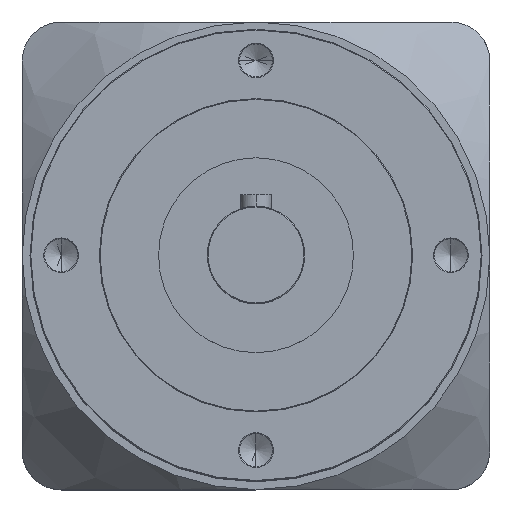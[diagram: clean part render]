
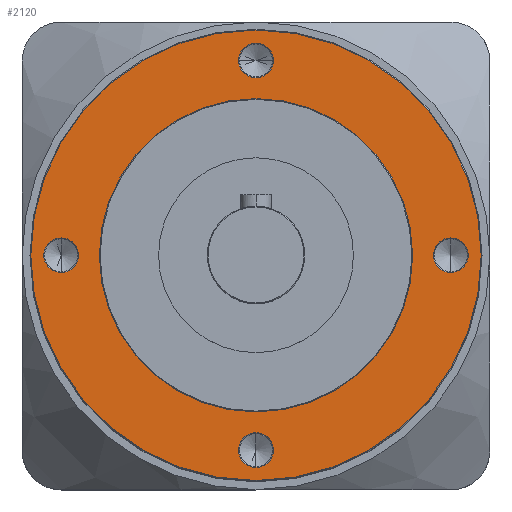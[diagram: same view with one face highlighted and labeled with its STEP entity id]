
A CAD part, top view. The second image highlights one B-rep face of the part: STEP entity #2120.
In plain terms, the highlighted planar face has unit normal (0, 0, 1).
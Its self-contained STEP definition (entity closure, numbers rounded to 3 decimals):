
#7 = DIRECTION ( 'NONE',  ( 0., 0., -1. ) ) ;
#13 = EDGE_LOOP ( 'NONE', ( #106, #1760 ) ) ;
#64 = CIRCLE ( 'NONE', #732, 4.45 ) ;
#74 = VERTEX_POINT ( 'NONE', #1720 ) ;
#84 = AXIS2_PLACEMENT_3D ( 'NONE', #2553, #1126, #2785 ) ;
#99 = DIRECTION ( 'NONE',  ( 1., 0., 0. ) ) ;
#105 = ORIENTED_EDGE ( 'NONE', *, *, #2007, .T. ) ;
#106 = ORIENTED_EDGE ( 'NONE', *, *, #2056, .T. ) ;
#120 = EDGE_LOOP ( 'NONE', ( #1407, #105 ) ) ;
#124 = VERTEX_POINT ( 'NONE', #1497 ) ;
#133 = CIRCLE ( 'NONE', #84, 4.45 ) ;
#151 = CARTESIAN_POINT ( 'NONE',  ( 85.676, -22.151, 304.371 ) ) ;
#164 = CIRCLE ( 'NONE', #460, 4.45 ) ;
#167 = CARTESIAN_POINT ( 'NONE',  ( -9.874, -22.151, 304.371 ) ) ;
#188 = DIRECTION ( 'NONE',  ( 0., 0., 1. ) ) ;
#257 = VERTEX_POINT ( 'NONE', #151 ) ;
#309 = ORIENTED_EDGE ( 'NONE', *, *, #491, .T. ) ;
#387 = CARTESIAN_POINT ( 'NONE',  ( 94.576, -22.151, 304.371 ) ) ;
#391 = DIRECTION ( 'NONE',  ( 0., 0., 1. ) ) ;
#415 = DIRECTION ( 'NONE',  ( 1., 0., 0. ) ) ;
#428 = AXIS2_PLACEMENT_3D ( 'NONE', #2946, #1521, #99 ) ;
#441 = CIRCLE ( 'NONE', #1679, 4.45 ) ;
#444 = VERTEX_POINT ( 'NONE', #1324 ) ;
#460 = AXIS2_PLACEMENT_3D ( 'NONE', #1078, #2742, #1313 ) ;
#467 = CARTESIAN_POINT ( 'NONE',  ( 31.138, -31.138, 304.371 ) ) ;
#491 = EDGE_CURVE ( 'NONE', #3009, #74, #441, .T. ) ;
#550 = AXIS2_PLACEMENT_3D ( 'NONE', #1436, #7, #1676 ) ;
#553 = ORIENTED_EDGE ( 'NONE', *, *, #3058, .T. ) ;
#635 = CARTESIAN_POINT ( 'NONE',  ( -17.674, -22.151, 304.371 ) ) ;
#684 = DIRECTION ( 'NONE',  ( 0., 0., -1. ) ) ;
#703 = PLANE ( 'NONE',  #865 ) ;
#732 = AXIS2_PLACEMENT_3D ( 'NONE', #167, #1843, #415 ) ;
#764 = CIRCLE ( 'NONE', #550, 4.45 ) ;
#765 = ORIENTED_EDGE ( 'NONE', *, *, #1385, .T. ) ;
#785 = FACE_BOUND ( 'NONE', #1714, .T. ) ;
#847 = FACE_OUTER_BOUND ( 'NONE', #120, .T. ) ;
#865 = AXIS2_PLACEMENT_3D ( 'NONE', #467, #2608, #945 ) ;
#877 = VERTEX_POINT ( 'NONE', #387 ) ;
#897 = CARTESIAN_POINT ( 'NONE',  ( 40.126, -22.151, 304.371 ) ) ;
#942 = CIRCLE ( 'NONE', #2692, 40.2 ) ;
#945 = DIRECTION ( 'NONE',  ( 1., 0., 0. ) ) ;
#953 = VERTEX_POINT ( 'NONE', #1136 ) ;
#961 = CIRCLE ( 'NONE', #1965, 4.45 ) ;
#980 = CARTESIAN_POINT ( 'NONE',  ( -14.324, -22.151, 304.371 ) ) ;
#1009 = CIRCLE ( 'NONE', #2051, 40.2 ) ;
#1011 = ORIENTED_EDGE ( 'NONE', *, *, #2805, .T. ) ;
#1015 = EDGE_CURVE ( 'NONE', #877, #257, #3093, .T. ) ;
#1056 = DIRECTION ( 'NONE',  ( 0., 0., -1. ) ) ;
#1078 = CARTESIAN_POINT ( 'NONE',  ( 40.126, 27.849, 304.371 ) ) ;
#1126 = DIRECTION ( 'NONE',  ( 0., 0., -1. ) ) ;
#1136 = CARTESIAN_POINT ( 'NONE',  ( -5.424, -22.151, 304.371 ) ) ;
#1138 = DIRECTION ( 'NONE',  ( 1., 0., 0. ) ) ;
#1139 = CARTESIAN_POINT ( 'NONE',  ( 40.126, 27.849, 304.371 ) ) ;
#1166 = DIRECTION ( 'NONE',  ( 0., 0., -1. ) ) ;
#1236 = CIRCLE ( 'NONE', #2223, 57.8 ) ;
#1240 = EDGE_LOOP ( 'NONE', ( #765, #1011 ) ) ;
#1247 = ORIENTED_EDGE ( 'NONE', *, *, #1815, .T. ) ;
#1313 = DIRECTION ( 'NONE',  ( 1., 0., 0. ) ) ;
#1324 = CARTESIAN_POINT ( 'NONE',  ( 35.676, 27.849, 304.371 ) ) ;
#1380 = DIRECTION ( 'NONE',  ( 1., 0., 0. ) ) ;
#1385 = EDGE_CURVE ( 'NONE', #124, #444, #961, .T. ) ;
#1407 = ORIENTED_EDGE ( 'NONE', *, *, #2854, .T. ) ;
#1408 = CARTESIAN_POINT ( 'NONE',  ( 97.926, -22.151, 304.371 ) ) ;
#1421 = AXIS2_PLACEMENT_3D ( 'NONE', #1823, #391, #2064 ) ;
#1429 = FACE_BOUND ( 'NONE', #13, .T. ) ;
#1436 = CARTESIAN_POINT ( 'NONE',  ( 40.126, -72.151, 304.371 ) ) ;
#1497 = CARTESIAN_POINT ( 'NONE',  ( 44.576, 27.849, 304.371 ) ) ;
#1521 = DIRECTION ( 'NONE',  ( 0., 0., -1. ) ) ;
#1615 = CARTESIAN_POINT ( 'NONE',  ( 40.126, -22.151, 304.371 ) ) ;
#1651 = FACE_BOUND ( 'NONE', #2376, .T. ) ;
#1676 = DIRECTION ( 'NONE',  ( 1., 0., 0. ) ) ;
#1679 = AXIS2_PLACEMENT_3D ( 'NONE', #2489, #1056, #2721 ) ;
#1681 = CARTESIAN_POINT ( 'NONE',  ( 80.326, -22.151, 304.371 ) ) ;
#1714 = EDGE_LOOP ( 'NONE', ( #553, #309 ) ) ;
#1720 = CARTESIAN_POINT ( 'NONE',  ( 44.576, -72.151, 304.371 ) ) ;
#1760 = ORIENTED_EDGE ( 'NONE', *, *, #1990, .T. ) ;
#1815 = EDGE_CURVE ( 'NONE', #257, #877, #2104, .T. ) ;
#1823 = CARTESIAN_POINT ( 'NONE',  ( 40.126, -22.151, 304.371 ) ) ;
#1843 = DIRECTION ( 'NONE',  ( 0., 0., -1. ) ) ;
#1847 = EDGE_LOOP ( 'NONE', ( #2191, #2448 ) ) ;
#1860 = DIRECTION ( 'NONE',  ( 1., 0., 0. ) ) ;
#1965 = AXIS2_PLACEMENT_3D ( 'NONE', #1139, #2801, #1380 ) ;
#1990 = EDGE_CURVE ( 'NONE', #2484, #2969, #1009, .T. ) ;
#2007 = EDGE_CURVE ( 'NONE', #2393, #2884, #1236, .T. ) ;
#2051 = AXIS2_PLACEMENT_3D ( 'NONE', #897, #2576, #1138 ) ;
#2054 = FACE_BOUND ( 'NONE', #1240, .T. ) ;
#2056 = EDGE_CURVE ( 'NONE', #2969, #2484, #942, .T. ) ;
#2064 = DIRECTION ( 'NONE',  ( 1., 0., 0. ) ) ;
#2104 = CIRCLE ( 'NONE', #2274, 4.45 ) ;
#2116 = CARTESIAN_POINT ( 'NONE',  ( 90.126, -22.151, 304.371 ) ) ;
#2120 = ADVANCED_FACE ( 'NONE', ( #847, #1429, #2054, #1651, #785, #2891 ), #703, .T. ) ;
#2191 = ORIENTED_EDGE ( 'NONE', *, *, #2275, .T. ) ;
#2223 = AXIS2_PLACEMENT_3D ( 'NONE', #1615, #188, #1860 ) ;
#2245 = EDGE_CURVE ( 'NONE', #2523, #953, #133, .T. ) ;
#2274 = AXIS2_PLACEMENT_3D ( 'NONE', #2116, #684, #2361 ) ;
#2275 = EDGE_CURVE ( 'NONE', #953, #2523, #64, .T. ) ;
#2361 = DIRECTION ( 'NONE',  ( 1., 0., 0. ) ) ;
#2376 = EDGE_LOOP ( 'NONE', ( #3006, #1247 ) ) ;
#2393 = VERTEX_POINT ( 'NONE', #1408 ) ;
#2448 = ORIENTED_EDGE ( 'NONE', *, *, #2245, .T. ) ;
#2484 = VERTEX_POINT ( 'NONE', #1681 ) ;
#2489 = CARTESIAN_POINT ( 'NONE',  ( 40.126, -72.151, 304.371 ) ) ;
#2523 = VERTEX_POINT ( 'NONE', #980 ) ;
#2553 = CARTESIAN_POINT ( 'NONE',  ( -9.874, -22.151, 304.371 ) ) ;
#2576 = DIRECTION ( 'NONE',  ( 0., 0., -1. ) ) ;
#2594 = CARTESIAN_POINT ( 'NONE',  ( 40.126, -22.151, 304.371 ) ) ;
#2608 = DIRECTION ( 'NONE',  ( 0., 0., 1. ) ) ;
#2692 = AXIS2_PLACEMENT_3D ( 'NONE', #2594, #1166, #2825 ) ;
#2699 = CIRCLE ( 'NONE', #1421, 57.8 ) ;
#2721 = DIRECTION ( 'NONE',  ( 1., 0., 0. ) ) ;
#2742 = DIRECTION ( 'NONE',  ( 0., 0., -1. ) ) ;
#2785 = DIRECTION ( 'NONE',  ( 1., 0., 0. ) ) ;
#2801 = DIRECTION ( 'NONE',  ( 0., 0., -1. ) ) ;
#2803 = CARTESIAN_POINT ( 'NONE',  ( -0.074, -22.151, 304.371 ) ) ;
#2805 = EDGE_CURVE ( 'NONE', #444, #124, #164, .T. ) ;
#2825 = DIRECTION ( 'NONE',  ( 1., 0., 0. ) ) ;
#2844 = CARTESIAN_POINT ( 'NONE',  ( 35.676, -72.151, 304.371 ) ) ;
#2854 = EDGE_CURVE ( 'NONE', #2884, #2393, #2699, .T. ) ;
#2884 = VERTEX_POINT ( 'NONE', #635 ) ;
#2891 = FACE_BOUND ( 'NONE', #1847, .T. ) ;
#2946 = CARTESIAN_POINT ( 'NONE',  ( 90.126, -22.151, 304.371 ) ) ;
#2969 = VERTEX_POINT ( 'NONE', #2803 ) ;
#3006 = ORIENTED_EDGE ( 'NONE', *, *, #1015, .T. ) ;
#3009 = VERTEX_POINT ( 'NONE', #2844 ) ;
#3058 = EDGE_CURVE ( 'NONE', #74, #3009, #764, .T. ) ;
#3093 = CIRCLE ( 'NONE', #428, 4.45 ) ;
